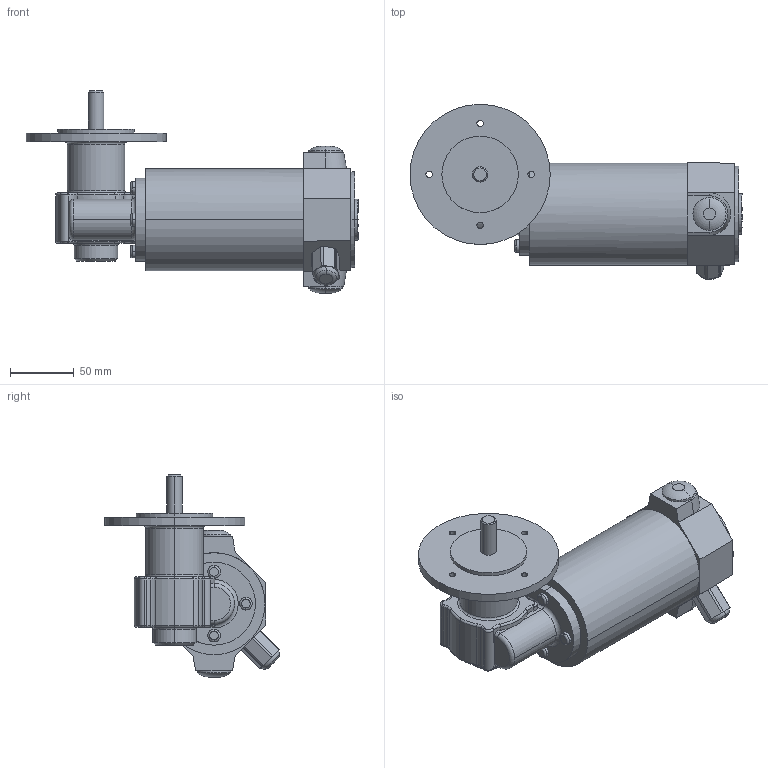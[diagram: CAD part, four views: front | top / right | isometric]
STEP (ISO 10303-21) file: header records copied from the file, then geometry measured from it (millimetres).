
FILE_DESCRIPTION(('OneSpaceDesigner STEP Export'),'2;1');
FILE_NAME('EPG13_GF12.stp','2008-07-02T13:23:31',(''),(''),'OneSpace Designer STEP processor (Jan. 2003) for AP214(CD)(Solid Model)','OneSpace Designer 12.01D 09-Jul-2004 (C) CoCreate Software GmbH','');
FILE_SCHEMA(('AUTOMOTIVE_DESIGN_CC2 {1 2 10303 214 -1 1 5 1}'));
Length unit declared in the file: millimetre
Products named in the file (2): EPG13_GF12
Assembly tree (1 placements, depth 2):
  EPG13_GF12
    EPG13_GF12
Bounding box: 260.5 x 137.39 x 158.5 mm (x, y, z)
Volume: 1211867.2 mm3; surface area: 100599.1 mm2
Topology: 1 solids, 1 shells, 212 faces, 511 edges, 317 vertices
Faces by surface type: cylinder 85, torus 74, plane 47, cone 4, bspline 2
Entity records: 8434 total; most frequent: CARTESIAN_POINT 3900, ORIENTED_EDGE 1022, DIRECTION 845, EDGE_CURVE 511, AXIS2_PLACEMENT_3D 350, VERTEX_POINT 317, EDGE_LOOP 236, CIRCLE 215
